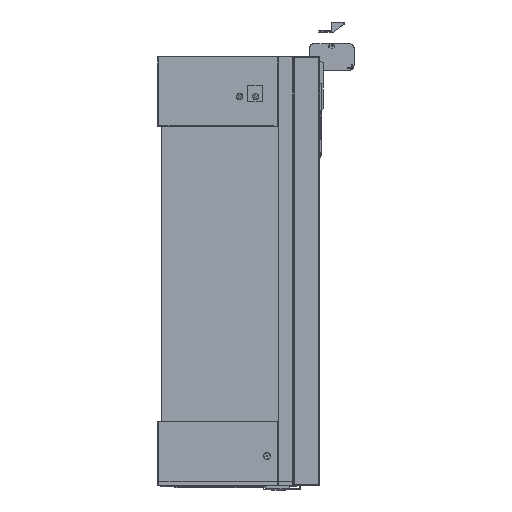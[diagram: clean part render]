
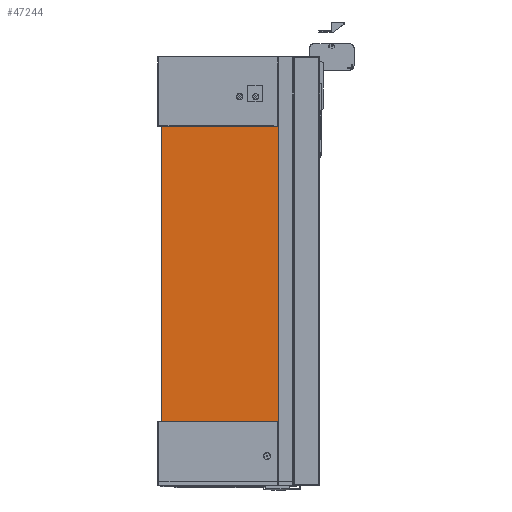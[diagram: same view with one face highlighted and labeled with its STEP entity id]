
A CAD part, left-side view. The second image highlights one B-rep face of the part: STEP entity #47244.
In plain terms, the highlighted planar face has unit normal (-1, 0, 0).
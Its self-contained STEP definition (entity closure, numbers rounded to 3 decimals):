
#1756 = LINE ( 'NONE', #48634, #54154 ) ;
#5337 = ORIENTED_EDGE ( 'NONE', *, *, #58454, .F. ) ;
#6768 = CARTESIAN_POINT ( 'NONE',  ( 2.75, -285.694, -418. ) ) ;
#7376 = FACE_OUTER_BOUND ( 'NONE', #8181, .T. ) ;
#8181 = EDGE_LOOP ( 'NONE', ( #5337, #42930, #48841, #60263 ) ) ;
#8987 = CARTESIAN_POINT ( 'NONE',  ( 2.75, 194.4, -418. ) ) ;
#11061 = DIRECTION ( 'NONE',  ( 0., 0., -1. ) ) ;
#12748 = AXIS2_PLACEMENT_3D ( 'NONE', #6768, #49325, #11061 ) ;
#15677 = PLANE ( 'NONE',  #12748 ) ;
#20538 = DIRECTION ( 'NONE',  ( 0., 1., 0. ) ) ;
#23502 = EDGE_CURVE ( 'NONE', #44149, #37807, #48906, .T. ) ;
#28959 = LINE ( 'NONE', #38525, #31061 ) ;
#30319 = CARTESIAN_POINT ( 'NONE',  ( 2.75, 57.4, -79. ) ) ;
#31061 = VECTOR ( 'NONE', #43762, 1000. ) ;
#33716 = VECTOR ( 'NONE', #43975, 1000. ) ;
#34498 = EDGE_CURVE ( 'NONE', #37807, #40288, #37051, .T. ) ;
#37051 = LINE ( 'NONE', #8987, #58627 ) ;
#37807 = VERTEX_POINT ( 'NONE', #48616 ) ;
#37955 = DIRECTION ( 'NONE',  ( 0., 0., -1. ) ) ;
#38525 = CARTESIAN_POINT ( 'NONE',  ( 2.75, 57.4, -418. ) ) ;
#40288 = VERTEX_POINT ( 'NONE', #60596 ) ;
#42930 = ORIENTED_EDGE ( 'NONE', *, *, #23502, .T. ) ;
#43762 = DIRECTION ( 'NONE',  ( 0., 0., -1. ) ) ;
#43975 = DIRECTION ( 'NONE',  ( 0., 1., 0. ) ) ;
#44149 = VERTEX_POINT ( 'NONE', #30319 ) ;
#45451 = CARTESIAN_POINT ( 'NONE',  ( 2.75, 57.4, -418. ) ) ;
#47244 = ADVANCED_FACE ( 'NONE', ( #7376 ), #15677, .F. ) ;
#47541 = EDGE_CURVE ( 'NONE', #55782, #40288, #1756, .T. ) ;
#48616 = CARTESIAN_POINT ( 'NONE',  ( 2.75, 194.4, -79. ) ) ;
#48634 = CARTESIAN_POINT ( 'NONE',  ( 2.75, -285.694, -418. ) ) ;
#48841 = ORIENTED_EDGE ( 'NONE', *, *, #34498, .T. ) ;
#48906 = LINE ( 'NONE', #49223, #33716 ) ;
#49223 = CARTESIAN_POINT ( 'NONE',  ( 2.75, -285.694, -79. ) ) ;
#49325 = DIRECTION ( 'NONE',  ( 1., 0., 0. ) ) ;
#54154 = VECTOR ( 'NONE', #20538, 1000. ) ;
#55782 = VERTEX_POINT ( 'NONE', #45451 ) ;
#58454 = EDGE_CURVE ( 'NONE', #44149, #55782, #28959, .T. ) ;
#58627 = VECTOR ( 'NONE', #37955, 1000. ) ;
#60263 = ORIENTED_EDGE ( 'NONE', *, *, #47541, .F. ) ;
#60596 = CARTESIAN_POINT ( 'NONE',  ( 2.75, 194.4, -418. ) ) ;
